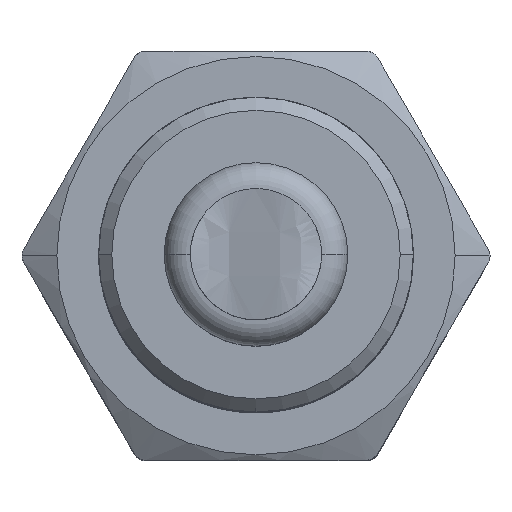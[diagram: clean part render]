
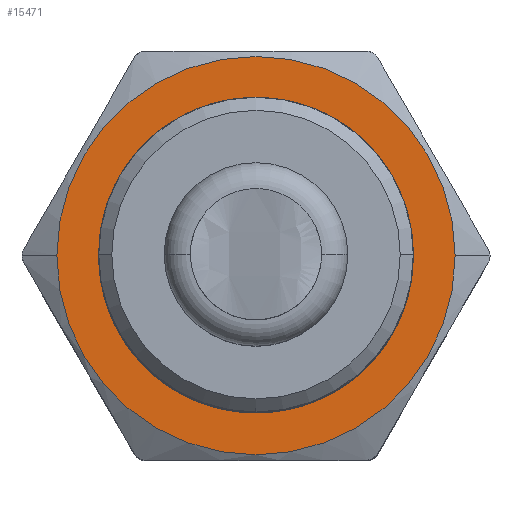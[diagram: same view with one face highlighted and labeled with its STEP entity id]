
A CAD part, top view. The second image highlights one B-rep face of the part: STEP entity #15471.
In plain terms, the highlighted planar face has unit normal (0, 0, 1).
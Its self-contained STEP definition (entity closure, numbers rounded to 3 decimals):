
#14440=CARTESIAN_POINT('',(0.,0.,15.));
#14441=DIRECTION('',(0.,0.,1.));
#14442=DIRECTION('',(-1.,0.,0.));
#14443=AXIS2_PLACEMENT_3D('',#14440,#14441,#14442);
#14448=CARTESIAN_POINT('',(0.,0.,15.));
#14449=DIRECTION('',(0.,0.,1.));
#14450=DIRECTION('',(1.,0.,0.));
#14451=AXIS2_PLACEMENT_3D('',#14448,#14449,#14450);
#14456=CARTESIAN_POINT('',(0.,-5.541,15.));
#14457=CARTESIAN_POINT('',(-0.266,-5.554,15.));
#14458=CARTESIAN_POINT('',(-0.794,-5.542,15.));
#14459=CARTESIAN_POINT('',(-1.578,-5.412,15.));
#14460=CARTESIAN_POINT('',(-2.328,-5.176,15.));
#14461=CARTESIAN_POINT('',(-3.053,-4.831,15.));
#14462=CARTESIAN_POINT('',(-3.727,-4.384,15.));
#14463=CARTESIAN_POINT('',(-4.347,-3.831,15.));
#14464=CARTESIAN_POINT('',(-4.878,-3.197,15.));
#14465=CARTESIAN_POINT('',(-5.289,-2.539,15.));
#14466=CARTESIAN_POINT('',(-5.595,-1.87,15.));
#14467=CARTESIAN_POINT('',(-5.812,-1.189,15.));
#14468=CARTESIAN_POINT('',(-5.947,-0.479,15.));
#14469=CARTESIAN_POINT('',(-5.995,0.26,15.));
#14470=CARTESIAN_POINT('',(-5.966,0.752,15.));
#14471=CARTESIAN_POINT('',(-5.936,0.999,15.));
#14476=DIRECTION('',(0.,1.,0.));
#14477=VECTOR('',#14476,0.041);
#14478=CARTESIAN_POINT('',(0.,-5.541,15.));
#14479=LINE('',#14478,#14477);
#14483=CARTESIAN_POINT('',(0.,0.,15.));
#14484=DIRECTION('',(0.,0.,1.));
#14485=DIRECTION('',(0.,-1.,0.));
#14486=AXIS2_PLACEMENT_3D('',#14483,#14484,#14485);
#14491=CARTESIAN_POINT('',(-5.936,0.999,15.));
#14492=CARTESIAN_POINT('',(-5.876,1.277,15.));
#14493=CARTESIAN_POINT('',(-5.718,1.819,15.));
#14494=CARTESIAN_POINT('',(-5.367,2.595,15.));
#14495=CARTESIAN_POINT('',(-4.91,3.312,15.));
#14496=CARTESIAN_POINT('',(-4.361,3.948,15.));
#14497=CARTESIAN_POINT('',(-3.725,4.502,15.));
#14498=CARTESIAN_POINT('',(-3.023,4.954,15.));
#14499=CARTESIAN_POINT('',(-2.254,5.305,15.));
#14500=CARTESIAN_POINT('',(-1.441,5.539,15.));
#14501=CARTESIAN_POINT('',(-0.614,5.65,15.));
#14502=CARTESIAN_POINT('',(0.222,5.638,15.));
#14503=CARTESIAN_POINT('',(1.034,5.505,15.));
#14504=CARTESIAN_POINT('',(1.82,5.254,15.));
#14505=CARTESIAN_POINT('',(2.308,5.015,15.));
#14506=CARTESIAN_POINT('',(2.544,4.876,15.));
#15173=CARTESIAN_POINT('',(-7.595,0.,15.));
#15174=CARTESIAN_POINT('',(7.595,0.,15.));
#15175=VERTEX_POINT('',#15173);
#15176=VERTEX_POINT('',#15174);
#15214=VERTEX_POINT('',#14456);
#15215=VERTEX_POINT('',#14471);
#15216=VERTEX_POINT('',#14506);
#15228=CARTESIAN_POINT('',(0.,-5.5,15.));
#15229=VERTEX_POINT('',#15228);
#15452=CARTESIAN_POINT('',(0.,0.,15.));
#15453=DIRECTION('',(0.,0.,1.));
#15454=DIRECTION('',(1.,0.,0.));
#15455=AXIS2_PLACEMENT_3D('',#15452,#15453,#15454);
#15456=PLANE('',#15455);
#15457=ORIENTED_EDGE('',*,*,#15419,.F.);
#15458=ORIENTED_EDGE('',*,*,#15435,.F.);
#15459=EDGE_LOOP('',(#15457,#15458));
#15460=FACE_OUTER_BOUND('',#15459,.F.);
#15462=ORIENTED_EDGE('',*,*,#15461,.F.);
#15464=ORIENTED_EDGE('',*,*,#15463,.T.);
#15466=ORIENTED_EDGE('',*,*,#15465,.T.);
#15468=ORIENTED_EDGE('',*,*,#15467,.F.);
#15469=EDGE_LOOP('',(#15462,#15464,#15466,#15468));
#15470=FACE_BOUND('',#15469,.F.);
#14444=CIRCLE('',#14443,7.595);
#14452=CIRCLE('',#14451,7.595);
#14472=B_SPLINE_CURVE_WITH_KNOTS('',3,(#14456,#14457,#14458,#14459,#14460,
#14461,#14462,#14463,#14464,#14465,#14466,#14467,#14468,#14469,#14470,#14471),
.UNSPECIFIED.,.F.,.F.,(4,1,1,1,1,1,1,1,1,1,1,1,1,4),(0.,0.077,
0.154,0.231,0.308,0.385,
0.462,0.538,0.615,0.692,
0.769,0.846,0.923,1.),.UNSPECIFIED.);
#14487=CIRCLE('',#14486,5.5);
#14507=B_SPLINE_CURVE_WITH_KNOTS('',3,(#14491,#14492,#14493,#14494,#14495,
#14496,#14497,#14498,#14499,#14500,#14501,#14502,#14503,#14504,#14505,#14506),
.UNSPECIFIED.,.F.,.F.,(4,1,1,1,1,1,1,1,1,1,1,1,1,4),(0.,0.077,
0.154,0.231,0.308,0.385,
0.462,0.538,0.615,0.692,
0.769,0.846,0.923,1.),.UNSPECIFIED.);
#15419=EDGE_CURVE('',#15175,#15176,#14444,.T.);
#15435=EDGE_CURVE('',#15176,#15175,#14452,.T.);
#15461=EDGE_CURVE('',#15214,#15215,#14472,.T.);
#15463=EDGE_CURVE('',#15214,#15229,#14479,.T.);
#15465=EDGE_CURVE('',#15229,#15216,#14487,.T.);
#15467=EDGE_CURVE('',#15215,#15216,#14507,.T.);
#15471=ADVANCED_FACE('',(#15460,#15470),#15456,.T.);
